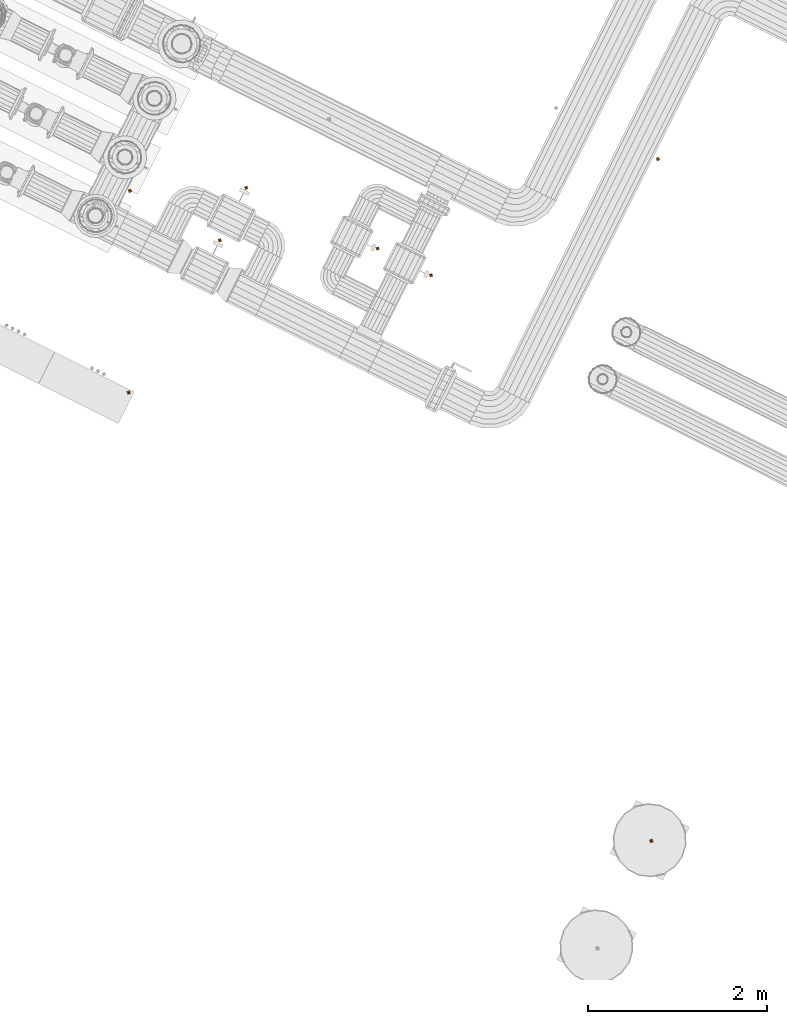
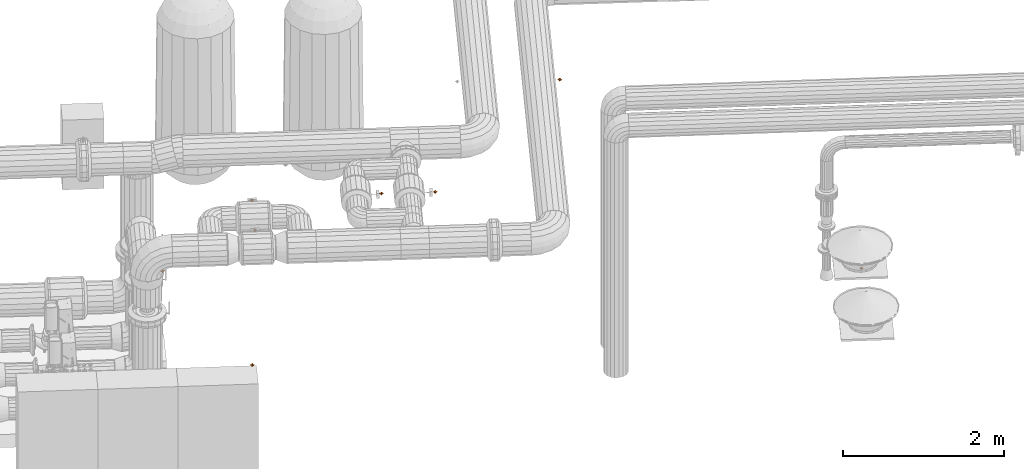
# One storey, part 148 of 152: 8 proxies.
"""IFC2X3 building model written with IfcOpenShell, lengths in metres."""

from ifc_helpers import new_model, si_unit, derived_unit, direction, frame, origin, place, context, subcontext, project, spatial, faceted_brep, type_object, element, save


model = new_model("IFC2X3")

# Units and contexts
model_context = context("Model", 3, precision=5.2338327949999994e-05, world=origin(), true_north=direction((0.0, 1.0)))
body_context = subcontext(model_context, "Body", "Model", "MODEL_VIEW")
ifc_project = project(units=[si_unit("LENGTHUNIT", "METRE"), si_unit("AREAUNIT", "SQUARE_METRE"), si_unit("VOLUMEUNIT", "CUBIC_METRE"), si_unit("MASSUNIT", "GRAM", prefix="KILO"), si_unit("PLANEANGLEUNIT", "RADIAN"), derived_unit("THERMALTRANSMITTANCEUNIT", [(si_unit("MASSUNIT", "GRAM", prefix="KILO"), 1), (si_unit("THERMODYNAMICTEMPERATUREUNIT", "KELVIN"), -1), (si_unit("TIMEUNIT", "SECOND"), -3)])], contexts=[model_context])

# Site, building, storey
site_placement = place(None, frame((0.0, 0.0, 0.0), z_axis=(0.0, 0.0, 1.0), x_axis=(0.8939966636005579, -0.4480736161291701, 0.0)))
site = spatial("IfcSite", under=ifc_project, at=site_placement, Name="Default", CompositionType="ELEMENT")
building_placement = place(site_placement, origin())
building = spatial("IfcBuilding", under=site, at=building_placement, CompositionType="ELEMENT")
storey_placement = place(building_placement, frame((0.0, 0.0, 2.7499999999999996)))
storey = spatial("IfcBuildingStorey", under=building, at=storey_placement, Name="1. Obergeschoss", CompositionType="ELEMENT", Elevation=2.7499999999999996)

# Proxies
building_element_proxy_type = type_object("IfcBuildingElementProxyType", Name="DirectShape:Gebäudeautomation", PredefinedType="NOTDEFINED")
proxy_1_placement = place(storey_placement, origin())
element("IfcBuildingElementProxy", 1, at=proxy_1_placement, inside=storey, type_object=building_element_proxy_type, Name="DirectShape:Wärmeversorgungsnetz Druckaufnehmer", context=body_context, shape_type="Brep", body=[
    faceted_brep([(11.943181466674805, 6.279319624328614, 2.266388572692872), (11.918181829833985, 6.279319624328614, 2.291388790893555), (11.943181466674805, 6.3043198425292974, 2.291388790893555), (11.943181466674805, 6.2543199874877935, 2.291388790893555), (11.968181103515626, 6.279319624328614, 2.291388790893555), (11.943181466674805, 6.279319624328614, 2.3163884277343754)], [[[0, 1, 2]], [[0, 3, 1]], [[0, 4, 3]], [[0, 2, 4]], [[5, 2, 1]], [[5, 1, 3]], [[5, 3, 4]], [[5, 4, 2]]]),
])
proxy_2_placement = place(storey_placement, origin())
element("IfcBuildingElementProxy", 2, at=proxy_2_placement, inside=storey, type_object=building_element_proxy_type, Name="DirectShape:Wärmeversorgungsnetz Regelventil", context=body_context, shape_type="Brep", body=[
    faceted_brep([(15.381822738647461, 6.945799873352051, 2.860469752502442), (15.356821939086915, 6.945799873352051, 2.8854699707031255), (15.381822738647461, 6.970800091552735, 2.8854699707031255), (15.381822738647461, 6.9207996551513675, 2.8854699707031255), (15.406822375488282, 6.945799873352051, 2.8854699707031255), (15.381822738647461, 6.945799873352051, 2.910469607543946)], [[[0, 1, 2]], [[0, 3, 1]], [[0, 4, 3]], [[0, 2, 4]], [[5, 2, 1]], [[5, 1, 3]], [[5, 3, 4]], [[5, 4, 2]]]),
])
proxy_3_placement = place(storey_placement, origin())
element("IfcBuildingElementProxy", 3, at=proxy_3_placement, inside=storey, type_object=building_element_proxy_type, Name="DirectShape:Wärmeversorgungsnetz Regelventil", context=body_context, shape_type="Brep", body=[
    faceted_brep([(14.712296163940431, 6.945799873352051, 2.863572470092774), (14.687295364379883, 6.945799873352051, 2.8885726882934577), (14.712296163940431, 6.970800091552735, 2.8885726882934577), (14.712296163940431, 6.9207996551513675, 2.8885726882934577), (14.73729580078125, 6.945799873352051, 2.8885726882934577), (14.712296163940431, 6.945799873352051, 2.913572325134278)], [[[0, 1, 2]], [[0, 3, 1]], [[0, 4, 3]], [[0, 2, 4]], [[5, 2, 1]], [[5, 1, 3]], [[5, 3, 4]], [[5, 4, 2]]]),
])
proxy_4_placement = place(storey_placement, origin())
element("IfcBuildingElementProxy", 4, at=proxy_4_placement, inside=storey, type_object=building_element_proxy_type, Name="DirectShape:Wärmeversorgungsnetz Regelventil", context=body_context, shape_type="Brep", body=[
    faceted_brep([(13.092147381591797, 6.893698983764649, 2.8623737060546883), (13.067146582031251, 6.893698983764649, 2.8873739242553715), (13.092147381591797, 6.918699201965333, 2.8873739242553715), (13.092147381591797, 6.868698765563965, 2.8873739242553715), (13.117147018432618, 6.893698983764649, 2.8873739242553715), (13.092147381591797, 6.893698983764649, 2.912373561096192)], [[[0, 1, 2]], [[0, 3, 1]], [[0, 4, 3]], [[0, 2, 4]], [[5, 2, 1]], [[5, 1, 3]], [[5, 3, 4]], [[5, 4, 2]]]),
])
proxy_5_placement = place(storey_placement, origin())
element("IfcBuildingElementProxy", 5, at=proxy_5_placement, inside=storey, type_object=building_element_proxy_type, Name="DirectShape:Wärmeversorgungsnetz Regelventil", context=body_context, shape_type="Brep", body=[
    faceted_brep([(13.091614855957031, 6.2376983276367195, 2.8725056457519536), (13.066615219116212, 6.2376983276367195, 2.897505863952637), (13.091614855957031, 6.262698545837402, 2.897505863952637), (13.091614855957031, 6.212698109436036, 2.897505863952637), (13.11661565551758, 6.2376983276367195, 2.897505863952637), (13.091614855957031, 6.2376983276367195, 2.9225055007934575)], [[[0, 1, 2]], [[0, 3, 1]], [[0, 4, 3]], [[0, 2, 4]], [[5, 2, 1]], [[5, 1, 3]], [[5, 3, 4]], [[5, 4, 2]]]),
])
proxy_6_placement = place(storey_placement, origin())
element("IfcBuildingElementProxy", 6, at=proxy_6_placement, inside=storey, type_object=building_element_proxy_type, Name="DirectShape:Wärmespeicher Rücklauffühler", context=body_context, shape_type="Brep", body=[
    faceted_brep([(17.07233117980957, 9.248863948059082, 2.8886970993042), (17.047331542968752, 9.248863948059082, 2.9136967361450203), (17.07233117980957, 9.273864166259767, 2.9136967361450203), (17.07233117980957, 9.223864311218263, 2.9136967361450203), (17.09733081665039, 9.248863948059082, 2.9136967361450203), (17.07233117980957, 9.248863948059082, 2.9386969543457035)], [[[0, 1, 2]], [[0, 3, 1]], [[0, 4, 3]], [[0, 2, 4]], [[5, 2, 1]], [[5, 1, 3]], [[5, 3, 4]], [[5, 4, 2]]]),
])
proxy_7_placement = place(storey_placement, origin())
element("IfcBuildingElementProxy", 7, at=proxy_7_placement, inside=storey, type_object=building_element_proxy_type, Name="DirectShape:Lüftung Maschinenhalle Abluftventilator 1", context=body_context, shape_type="Brep", body=[
    faceted_brep([(20.427911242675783, 2.388804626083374, 4.679899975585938), (20.40291276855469, 2.388804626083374, 4.704899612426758), (20.427911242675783, 2.4138046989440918, 4.704899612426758), (20.427911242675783, 2.363804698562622, 4.704899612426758), (20.452912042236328, 2.388804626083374, 4.704899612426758), (20.427911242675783, 2.388804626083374, 4.729899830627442)], [[[0, 1, 2]], [[0, 3, 1]], [[0, 4, 3]], [[0, 2, 4]], [[5, 2, 1]], [[5, 1, 3]], [[5, 3, 4]], [[5, 4, 2]]]),
])
proxy_8_placement = place(storey_placement, origin())
element("IfcBuildingElementProxy", 8, at=proxy_8_placement, inside=storey, type_object=building_element_proxy_type, Name="DirectShape:Schaltschrank", context=body_context, shape_type="Brep", body=[
    faceted_brep([(12.94269603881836, 4.25438130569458, 2.2132342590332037), (12.91769640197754, 4.25438130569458, 2.238233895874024), (12.94269603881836, 4.279381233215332, 2.238233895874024), (12.94269603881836, 4.229381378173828, 2.238233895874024), (12.967695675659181, 4.25438130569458, 2.238233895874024), (12.94269603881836, 4.25438130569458, 2.2632341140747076)], [[[0, 1, 2]], [[0, 3, 1]], [[0, 4, 3]], [[0, 2, 4]], [[5, 2, 1]], [[5, 1, 3]], [[5, 3, 4]], [[5, 4, 2]]]),
])

save(model, "model.ifc")
